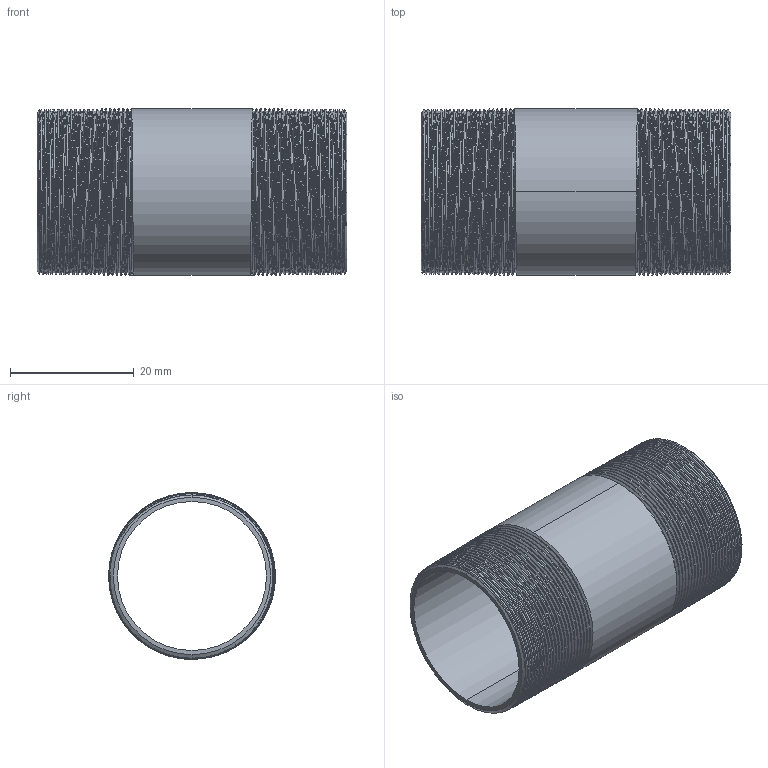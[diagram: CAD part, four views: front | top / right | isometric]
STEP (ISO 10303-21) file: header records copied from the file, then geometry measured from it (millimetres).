
FILE_DESCRIPTION (( 'STEP AP203' ), '1' );
FILE_NAME ('3D_R210_3-4x50_17148545.STEP', '2024-08-16T09:58:04', ( '' ), ( '' ), 'SwSTEP 2.0', 'SolidWorks 2024', '' );
FILE_SCHEMA (( 'CONFIG_CONTROL_DESIGN' ));
Length unit declared in the file: millimetre
Products named in the file (1): 3D_R210_3-4x50_17148545
Bounding box: 50 x 26.89 x 26.9 mm (x, y, z)
Volume: 5129.9 mm3; surface area: 9311.7 mm2
Topology: 1 solids, 1 shells, 106 faces, 304 edges, 200 vertices
Faces by surface type: cone 92, bspline 6, cylinder 4, plane 4
Entity records: 15699 total; most frequent: CARTESIAN_POINT 13257, ORIENTED_EDGE 608, DIRECTION 322, EDGE_CURVE 304, VERTEX_POINT 200, B_SPLINE_CURVE_WITH_KNOTS 188, AXIS2_PLACEMENT_3D 113, EDGE_LOOP 108
